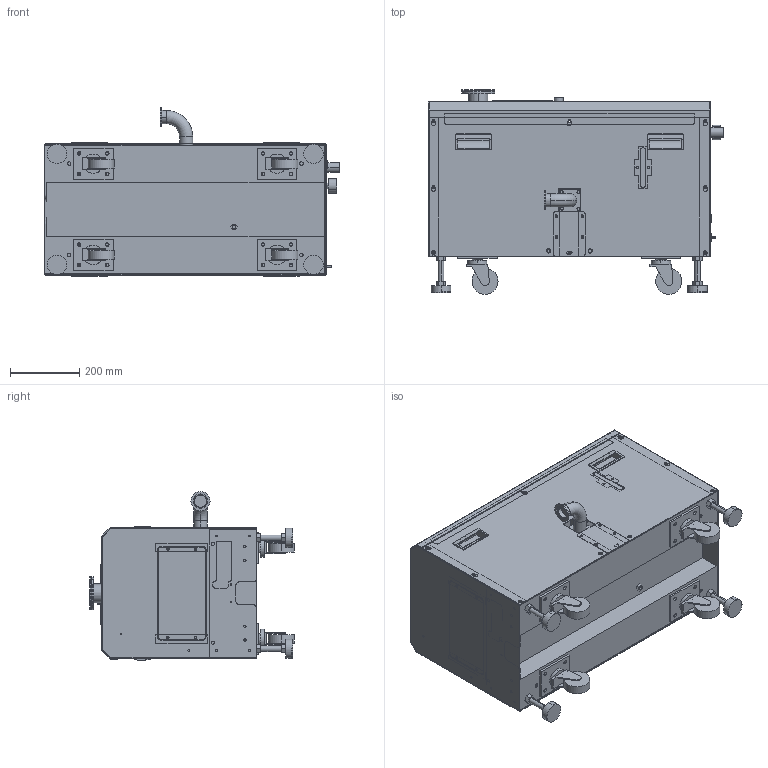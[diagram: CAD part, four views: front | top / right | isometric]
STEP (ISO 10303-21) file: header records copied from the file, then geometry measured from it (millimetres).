
FILE_DESCRIPTION((''),'2;1');
FILE_NAME('300547541_Y19_000_ASM','2016-07-01T',('56762'),('Copyright by Leybold GmbH'),'PRO/ENGINEER BY PARAMETRIC TECHNOLOGY CORPORATION, 2015280','PRO/ENGINEER BY PARAMETRIC TECHNOLOGY CORPORATION, 2015280','');
FILE_SCHEMA(('AUTOMOTIVE_DESIGN { 1 0 10303 214 1 1 1 1 }'));
Products named in the file (18): 300547526_Y19_000; 300539643_Y19_000; 300539644_Y19_000; 300539645_Y19_000; 300547528_Y19_000; 300539648_Y19_000; 300547529_Y19_000; 300547530_Y19_000; 300547531_Y19_000; 300547532_Y19_000; 300547534_Y19_000; 300547535_Y19_000; 300552591_Y19_000; 300547536_Y19_000; 300547538_Y19_000; 300547539_Y19_000; 300547540_Y19_000; 300547541_Y19_000_ASM
Assembly tree (26 placements, depth 2):
  300547541_Y19_000_ASM
    300547526_Y19_000
    300539643_Y19_000  x4
    300539644_Y19_000  x4
    300539645_Y19_000  x4
    300547528_Y19_000
    300539648_Y19_000
    300547529_Y19_000
    300547530_Y19_000
    300547531_Y19_000
    300547532_Y19_000
    300547534_Y19_000
    300547535_Y19_000
    300552591_Y19_000
    300547536_Y19_000
    300547538_Y19_000
    300547539_Y19_000
    300547540_Y19_000
Bounding box: 852 x 591 x 487.2 mm (x, y, z)
Volume: 9226236.8 mm3; surface area: 4639294.8 mm2
Topology: 30 solids, 30 shells, 2158 faces, 5727 edges, 3799 vertices
Faces by surface type: plane 1079, cylinder 670, extrusion 365, cone 34, torus 6, sphere 4
Entity records: 71535 total; most frequent: CARTESIAN_POINT 14741, ORIENTED_EDGE 10562, DIRECTION 9485, EDGE_CURVE 5281, VECTOR 3637, VERTEX_POINT 3511, LINE 3272, AXIS2_PLACEMENT_3D 2924
